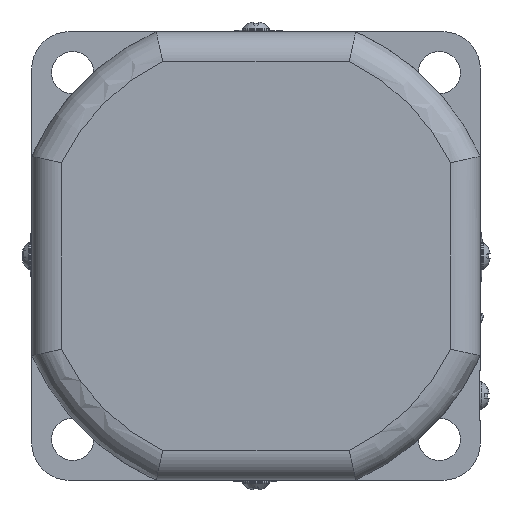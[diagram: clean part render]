
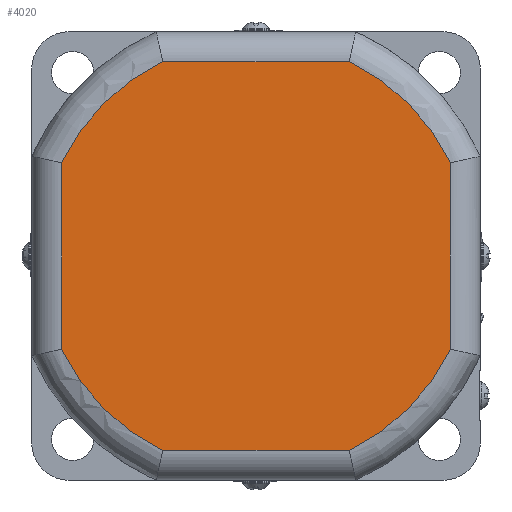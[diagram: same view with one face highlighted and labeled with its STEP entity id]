
A CAD part, left-side view. The second image highlights one B-rep face of the part: STEP entity #4020.
In plain terms, the highlighted planar face has unit normal (-1, 0, 0).
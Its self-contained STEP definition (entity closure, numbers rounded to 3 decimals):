
#218=LINE('',#6348,#522);
#221=LINE('',#6368,#525);
#222=LINE('',#6421,#526);
#223=LINE('',#6438,#527);
#522=VECTOR('',#4890,37.393);
#525=VECTOR('',#4895,37.393);
#526=VECTOR('',#4910,37.393);
#527=VECTOR('',#4913,37.393);
#960=FACE_OUTER_BOUND('',#1224,.T.);
#1224=EDGE_LOOP('',(#2828,#2829,#2830,#2831,#2832,#2833,#2834,#2835));
#1466=CIRCLE('',#4300,43.25);
#1467=CIRCLE('',#4304,43.25);
#1470=CIRCLE('',#4308,43.25);
#1471=CIRCLE('',#4312,43.25);
#1695=VERTEX_POINT('',#6298);
#1697=VERTEX_POINT('',#6315);
#1699=VERTEX_POINT('',#6333);
#1701=VERTEX_POINT('',#6352);
#1702=VERTEX_POINT('',#6370);
#1703=VERTEX_POINT('',#6388);
#1704=VERTEX_POINT('',#6406);
#1705=VERTEX_POINT('',#6423);
#2118=EDGE_CURVE('',#1697,#1695,#1466,.T.);
#2120=EDGE_CURVE('',#1699,#1697,#218,.T.);
#2124=EDGE_CURVE('',#1695,#1701,#221,.T.);
#2126=EDGE_CURVE('',#1702,#1699,#1467,.T.);
#2130=EDGE_CURVE('',#1701,#1703,#1470,.T.);
#2132=EDGE_CURVE('',#1704,#1702,#222,.T.);
#2134=EDGE_CURVE('',#1703,#1705,#223,.T.);
#2135=EDGE_CURVE('',#1705,#1704,#1471,.T.);
#2828=ORIENTED_EDGE('',*,*,#2134,.F.);
#2829=ORIENTED_EDGE('',*,*,#2130,.F.);
#2830=ORIENTED_EDGE('',*,*,#2124,.F.);
#2831=ORIENTED_EDGE('',*,*,#2118,.F.);
#2832=ORIENTED_EDGE('',*,*,#2120,.F.);
#2833=ORIENTED_EDGE('',*,*,#2126,.F.);
#2834=ORIENTED_EDGE('',*,*,#2132,.F.);
#2835=ORIENTED_EDGE('',*,*,#2135,.F.);
#3604=PLANE('',#4314);
#4020=ADVANCED_FACE('',(#960),#3604,.F.);
#4300=AXIS2_PLACEMENT_3D('',#6330,#4886,#4887);
#4304=AXIS2_PLACEMENT_3D('',#6385,#4898,#4899);
#4308=AXIS2_PLACEMENT_3D('',#6404,#4906,#4907);
#4312=AXIS2_PLACEMENT_3D('',#6440,#4916,#4917);
#4314=AXIS2_PLACEMENT_3D('',#6442,#4920,#4921);
#4886=DIRECTION('center_axis',(1.,0.,0.));
#4887=DIRECTION('ref_axis',(0.,0.707,0.707));
#4890=DIRECTION('',(0.,0.,1.));
#4895=DIRECTION('',(0.,-1.,0.));
#4898=DIRECTION('center_axis',(1.,0.,0.));
#4899=DIRECTION('ref_axis',(0.,0.707,-0.707));
#4906=DIRECTION('center_axis',(1.,0.,0.));
#4907=DIRECTION('ref_axis',(0.,-0.707,0.707));
#4910=DIRECTION('',(0.,1.,0.));
#4913=DIRECTION('',(0.,0.,-1.));
#4916=DIRECTION('center_axis',(1.,0.,0.));
#4917=DIRECTION('ref_axis',(0.,-0.707,-0.707));
#4920=DIRECTION('center_axis',(1.,0.,0.));
#4921=DIRECTION('ref_axis',(0.,0.,1.));
#6298=CARTESIAN_POINT('',(-58.3,18.697,39.));
#6315=CARTESIAN_POINT('',(-58.3,39.,18.697));
#6330=CARTESIAN_POINT('Origin',(-58.3,0.,
0.));
#6333=CARTESIAN_POINT('',(-58.3,39.,-18.697));
#6348=CARTESIAN_POINT('',(-58.3,39.,-18.697));
#6352=CARTESIAN_POINT('',(-58.3,-18.697,39.));
#6368=CARTESIAN_POINT('',(-58.3,18.697,39.));
#6370=CARTESIAN_POINT('',(-58.3,18.697,-39.));
#6385=CARTESIAN_POINT('Origin',(-58.3,0.,
0.));
#6388=CARTESIAN_POINT('',(-58.3,-39.,18.697));
#6404=CARTESIAN_POINT('Origin',(-58.3,0.,
0.));
#6406=CARTESIAN_POINT('',(-58.3,-18.697,-39.));
#6421=CARTESIAN_POINT('',(-58.3,-18.697,-39.));
#6423=CARTESIAN_POINT('',(-58.3,-39.,-18.697));
#6438=CARTESIAN_POINT('',(-58.3,-39.,18.697));
#6440=CARTESIAN_POINT('Origin',(-58.3,0.,
0.));
#6442=CARTESIAN_POINT('Origin',(-58.3,0.,
0.));
